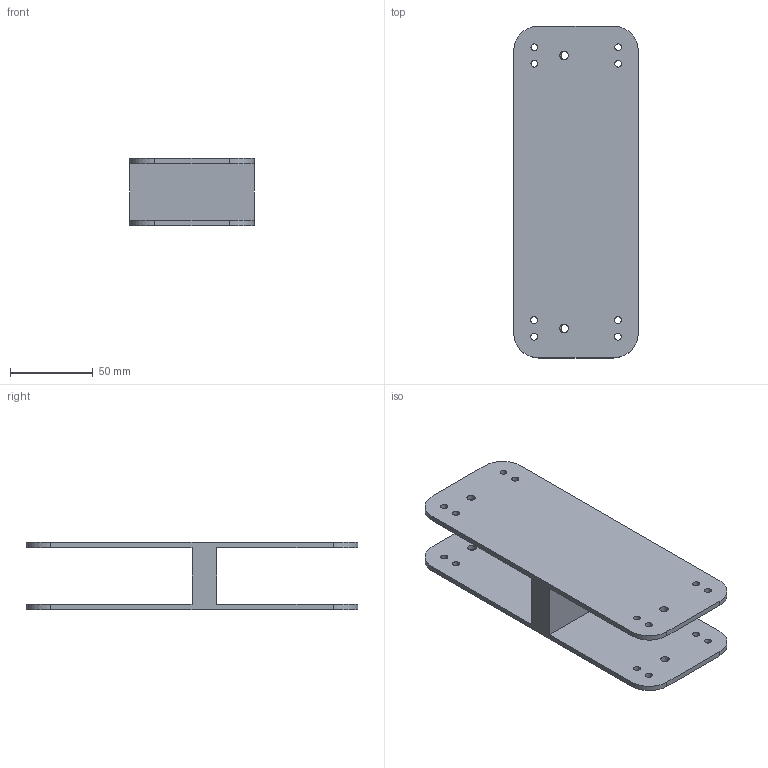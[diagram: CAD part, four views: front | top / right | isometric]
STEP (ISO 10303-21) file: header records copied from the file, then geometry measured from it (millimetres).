
FILE_DESCRIPTION(/* description */ ('STEP AP242','CAx-IF Rec.Pracs.---Representation and Presentation of Product Manufacturing Information (PMI)---4.0---2014-10-13','CAx-IF Rec.Pracs.---3D Tessellated Geometry---0.4---2014-09-14','2;1'),/* implementation_level */ '2;1');
FILE_NAME(/* name */ '65d97aff26fcd7072ec13f28',/* time_stamp */ '2024-02-24T05:13:35Z',/* author */ (''),/* organization */ (''),/* preprocessor_version */ 'ST-DEVELOPER v19.4',/* originating_system */ ' ',/* authorisation */ ' ');
FILE_SCHEMA (('AP242_MANAGED_MODEL_BASED_3D_ENGINEERING_MIM_LF { 1 0 10303 442 1 1 4 }'));
Length unit declared in the file: metre
Products named in the file (1): Part 1
Bounding box: 75 x 200 x 40.45 mm (x, y, z)
Volume: 131455.9 mm3; surface area: 66716.3 mm2
Topology: 1 solids, 1 shells, 42 faces, 122 edges, 82 vertices
Faces by surface type: cylinder 28, plane 14
Full cylindrical faces by diameter (mm): 4.1 x16, 5.1 x4
Entity records: 1402 total; most frequent: DIRECTION 242, CARTESIAN_POINT 223, ORIENTED_EDGE 200, EDGE_LOOP 102, FACE_BOUND 102, EDGE_CURVE 100, AXIS2_PLACEMENT_3D 99, VERTEX_POINT 80
